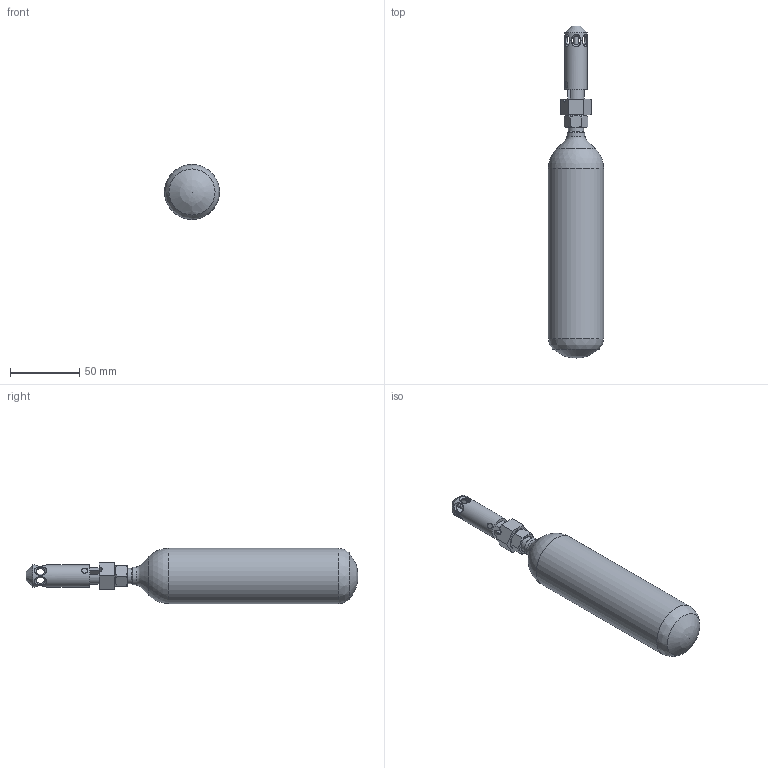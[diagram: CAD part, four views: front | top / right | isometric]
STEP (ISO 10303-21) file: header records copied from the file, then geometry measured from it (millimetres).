
FILE_DESCRIPTION(/* description */ (''),/* implementation_level */ '2;1');
FILE_NAME(/* name */ '40-056-20-68182-02 - AMFE - cylinder size 2.stp',/* time_stamp */ '2025-03-26T16:30:39+01:00',/* author */ ('ASc'),/* organization */ (''),/* preprocessor_version */ 'ST-DEVELOPER v19.2',/* originating_system */ 'Autodesk Inventor 2023',/* authorisation */ '');
FILE_SCHEMA (('AUTOMOTIVE_DESIGN { 1 0 10303 214 3 1 1 }'));
Length unit declared in the file: millimetre
Products named in the file (1): 40-056-20-68182-02_Vereinfachen_1
Bounding box: 40 x 240.4 x 40 mm (x, y, z)
Volume: 197679 mm3; surface area: 25784.1 mm2
Topology: 1 solids, 1 shells, 79 faces, 244 edges, 162 vertices
Faces by surface type: plane 29, cone 25, cylinder 18, sphere 3, torus 2, bspline 2
Full cylindrical faces by diameter (mm): 2.9 x1, 3 x1, 6.5 x6, 11 x1, 12 x1, 12.5 x1, 13 x1, 15 x1, 16 x1, 40 x1
Entity records: 3406 total; most frequent: CARTESIAN_POINT 1104, ORIENTED_EDGE 480, DIRECTION 424, EDGE_CURVE 240, AXIS2_PLACEMENT_3D 169, VERTEX_POINT 162, EDGE_LOOP 96, LINE 86
